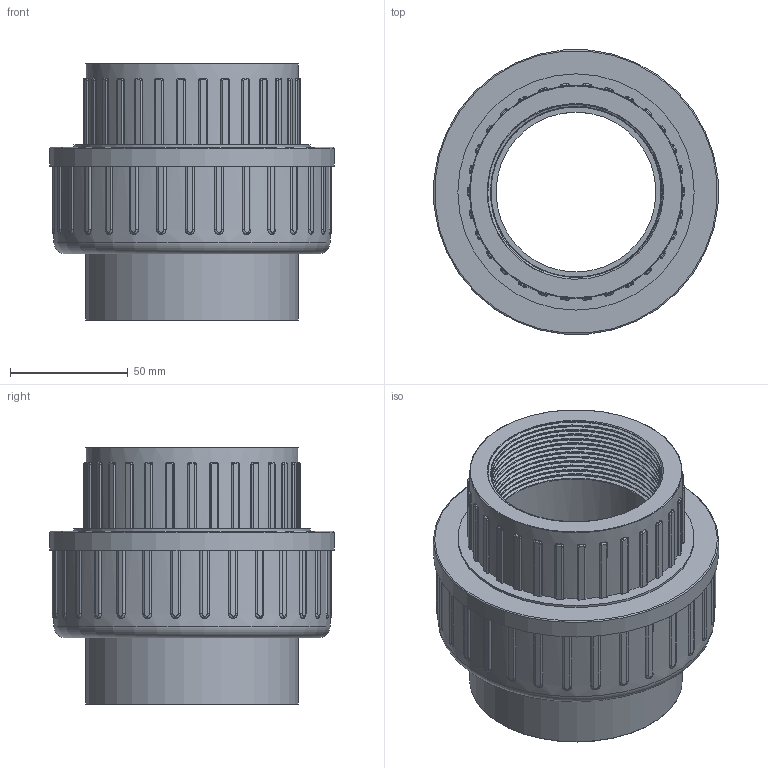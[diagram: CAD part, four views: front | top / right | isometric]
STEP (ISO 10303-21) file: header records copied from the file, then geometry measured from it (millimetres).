
FILE_DESCRIPTION(/* description */ (''),/* implementation_level */ '2;1');
FILE_NAME(/* name */ 'C:\Users\POLYPIPE\Desktop\DATASET INVENTOR\LIBRERIA EFFAST\3D_RACCORDI\RER\3D_RERBOE\3D_RERBOE075H.stp',/* time_stamp */ '2018-01-22T15:57:45+01:00',/* author */ ('POLYPIPE'),/* organization */ (''),/* preprocessor_version */ 'ST-DEVELOPER v16.1',/* originating_system */ 'Autodesk Inventor 2016',/* authorisation */ '');
FILE_SCHEMA (('CONFIG_CONTROL_DESIGN'));
Length unit declared in the file: centimetre
Products named in the file (1): 3D_RERBOE
Bounding box: 120.58 x 120.58 x 109 mm (x, y, z)
Volume: 453237.7 mm3; surface area: 96522.8 mm2
Topology: 1 solids, 2 shells, 522 faces, 1407 edges, 897 vertices
Faces by surface type: cylinder 222, plane 164, bspline 130, torus 4, cone 2
Full cylindrical faces by diameter (mm): 67.8 x1, 69.4 x1, 72.226 x2, 90.2 x1, 90.3 x1, 92 x1, 96.5 x1, 98 x1, 100.2 x1, 117.5 x1, 121 x1
Entity records: 28432 total; most frequent: CARTESIAN_POINT 15263, ORIENTED_EDGE 2764, DIRECTION 2536, EDGE_CURVE 1382, AXIS2_PLACEMENT_3D 965, VERTEX_POINT 889, LINE 606, VECTOR 606
